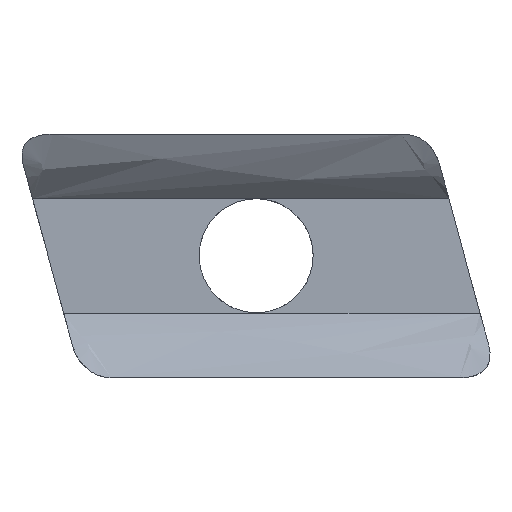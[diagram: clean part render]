
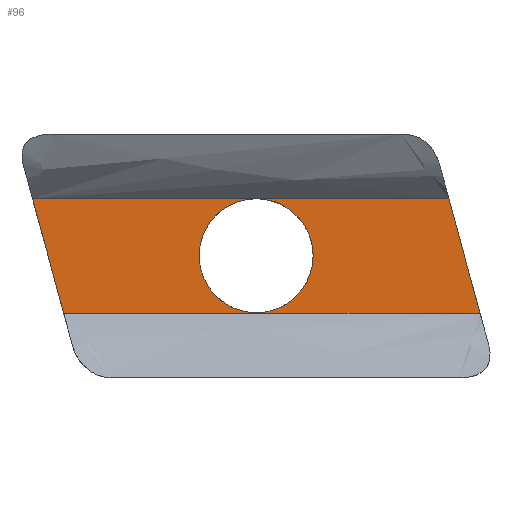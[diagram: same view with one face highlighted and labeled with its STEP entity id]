
A CAD part, top view. The second image highlights one B-rep face of the part: STEP entity #96.
In plain terms, the highlighted planar face has unit normal (0, 0, 1).
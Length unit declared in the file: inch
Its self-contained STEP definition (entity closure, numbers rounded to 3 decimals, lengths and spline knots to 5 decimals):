
#96=ADVANCED_FACE('',(#189,#190),#191,.T.);
#189=FACE_BOUND('',#1796,.T.);
#190=FACE_OUTER_BOUND('',#1797,.T.);
#191=PLANE('',#1798);
#1796=EDGE_LOOP('',(#2012,#2013,#2014,#2015));
#1797=EDGE_LOOP('',(#2016,#2017,#2018,#2019,#2020));
#1798=AXIS2_PLACEMENT_3D('',#2021,#2022,#2023);
#2012=ORIENTED_EDGE('',*,*,#2152,.T.);
#2013=ORIENTED_EDGE('',*,*,#2098,.T.);
#2014=ORIENTED_EDGE('',*,*,#2153,.T.);
#2015=ORIENTED_EDGE('',*,*,#2149,.T.);
#2016=ORIENTED_EDGE('',*,*,#2139,.F.);
#2017=ORIENTED_EDGE('',*,*,#2146,.T.);
#2018=ORIENTED_EDGE('',*,*,#2132,.F.);
#2019=ORIENTED_EDGE('',*,*,#2134,.T.);
#2020=ORIENTED_EDGE('',*,*,#2068,.T.);
#2021=CARTESIAN_POINT('',(-0.14909,0.203,0.0666));
#2022=DIRECTION('',(0.0,0.0,1.0));
#2023=DIRECTION('',(0.0,-1.0,0.0));
#2068=EDGE_CURVE('',#2184,#2182,#2185,.T.);
#2098=EDGE_CURVE('',#2237,#2235,#2238,.T.);
#2132=EDGE_CURVE('',#2283,#2277,#2285,.T.);
#2134=EDGE_CURVE('',#2283,#2184,#2287,.T.);
#2139=EDGE_CURVE('',#2292,#2182,#2293,.T.);
#2146=EDGE_CURVE('',#2292,#2277,#2300,.T.);
#2149=EDGE_CURVE('',#2304,#2302,#2305,.T.);
#2152=EDGE_CURVE('',#2302,#2237,#2308,.T.);
#2153=EDGE_CURVE('',#2235,#2304,#2309,.T.);
#2182=VERTEX_POINT('',#2369);
#2184=VERTEX_POINT('',#2376);
#2185=LINE('',#2377,#2378);
#2235=VERTEX_POINT('',#2775);
#2237=VERTEX_POINT('',#2778);
#2238=B_SPLINE_CURVE_WITH_KNOTS('',3,(#2779,#2780,#2781,#2782),.UNSPECIFIED.,.F.,.F.,(4,4),(-1.0,-0.0),.UNSPECIFIED.);
#2277=VERTEX_POINT('',#2949);
#2283=VERTEX_POINT('',#2970);
#2285=LINE('',#2975,#2976);
#2287=LINE('',#2978,#2979);
#2292=VERTEX_POINT('',#3018);
#2293=LINE('',#3019,#3020);
#2300=LINE('',#3031,#3032);
#2302=VERTEX_POINT('',#3034);
#2304=VERTEX_POINT('',#3037);
#2305=B_SPLINE_CURVE_WITH_KNOTS('',3,(#3038,#3039,#3040,#3041),.UNSPECIFIED.,.F.,.F.,(4,4),(-1.0,-0.0),.UNSPECIFIED.);
#2308=B_SPLINE_CURVE_WITH_KNOTS('',3,(#3045,#3046,#3047,#3048),.UNSPECIFIED.,.F.,.F.,(4,4),(-1.0,-0.0),.UNSPECIFIED.);
#2309=B_SPLINE_CURVE_WITH_KNOTS('',3,(#3049,#3050,#3051,#3052),.UNSPECIFIED.,.F.,.F.,(4,4),(-1.0,-0.0),.UNSPECIFIED.);
#2369=CARTESIAN_POINT('',(0.61456,0.10727,0.0666));
#2376=CARTESIAN_POINT('',(-0.07948,0.10727,0.0666));
#2377=CARTESIAN_POINT('',(-0.14909,0.10727,0.0666));
#2378=VECTOR('',#3064,1.);
#2775=CARTESIAN_POINT('',(0.14626,0.20351,0.0666));
#2778=CARTESIAN_POINT('',(0.24126,0.10851,0.0666));
#2779=CARTESIAN_POINT('',(0.24126,0.10851,0.0666));
#2780=CARTESIAN_POINT('',(0.1888,0.10851,0.0666));
#2781=CARTESIAN_POINT('',(0.14626,0.15104,0.0666));
#2782=CARTESIAN_POINT('',(0.14626,0.20351,0.0666));
#2949=CARTESIAN_POINT('',(0.56238,0.29872,0.0666));
#2970=CARTESIAN_POINT('',(-0.13162,0.29872,0.0666));
#2975=CARTESIAN_POINT('',(-0.14909,0.29872,0.0666));
#2976=VECTOR('',#3079,1.);
#2978=CARTESIAN_POINT('',(-0.10705,0.20851,0.0666));
#2979=VECTOR('',#3080,1.);
#3018=CARTESIAN_POINT('',(0.58847,0.203,0.0666));
#3019=CARTESIAN_POINT('',(0.56298,0.29655,0.0666));
#3020=VECTOR('',#3081,1.0);
#3031=CARTESIAN_POINT('',(0.5613,0.30268,0.0666));
#3032=VECTOR('',#3086,1.);
#3034=CARTESIAN_POINT('',(0.33627,0.20351,0.0666));
#3037=CARTESIAN_POINT('',(0.24126,0.2985,0.0666));
#3038=CARTESIAN_POINT('',(0.24126,0.2985,0.0666));
#3039=CARTESIAN_POINT('',(0.29373,0.2985,0.0666));
#3040=CARTESIAN_POINT('',(0.33627,0.25597,0.0666));
#3041=CARTESIAN_POINT('',(0.33627,0.20351,0.0666));
#3045=CARTESIAN_POINT('',(0.33627,0.20351,0.0666));
#3046=CARTESIAN_POINT('',(0.33627,0.15104,0.0666));
#3047=CARTESIAN_POINT('',(0.29373,0.10851,0.0666));
#3048=CARTESIAN_POINT('',(0.24126,0.10851,0.0666));
#3049=CARTESIAN_POINT('',(0.14626,0.20351,0.0666));
#3050=CARTESIAN_POINT('',(0.14626,0.25597,0.0666));
#3051=CARTESIAN_POINT('',(0.1888,0.2985,0.0666));
#3052=CARTESIAN_POINT('',(0.24126,0.2985,0.0666));
#3064=DIRECTION('',(1.0,0.,0.0));
#3079=DIRECTION('',(1.0,0.,0.0));
#3080=DIRECTION('',(0.263,-0.965,0.0));
#3081=DIRECTION('',(0.263,-0.965,0.0));
#3086=DIRECTION('',(-0.263,0.965,0.0));
